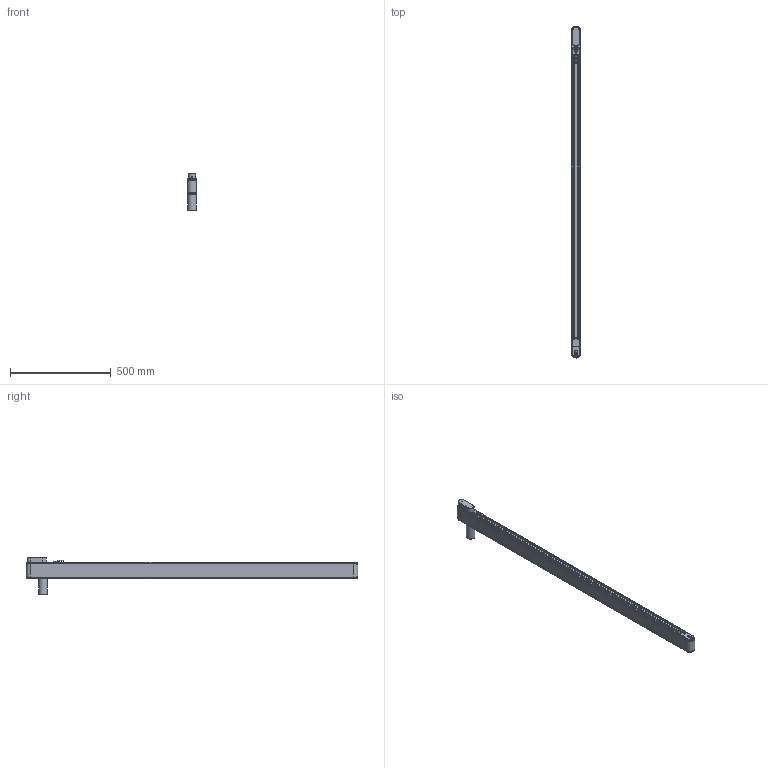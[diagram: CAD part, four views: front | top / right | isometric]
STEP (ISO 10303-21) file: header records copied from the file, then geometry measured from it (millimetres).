
FILE_DESCRIPTION(/* description */ (''),/* implementation_level */ '2;1');
FILE_NAME(/* name */ 'G:\DATEN\CAD\Förderband\Marketing\3D-Modelle (Standard)\FR-40-80-Q\FR-40-80-Q-1600-K (Motorendrohr 80 mm).stp',/* time_stamp */ '2019-05-08T14:24:53+02:00',/* author */ ('melanie.ochs'),/* organization */ (''),/* preprocessor_version */ 'ST-DEVELOPER v17',/* originating_system */ 'Autodesk Inventor 2019',/* authorisation */ '');
FILE_SCHEMA (('CONFIG_CONTROL_DESIGN'));
Length unit declared in the file: centimetre
Products named in the file (1): FR-40-80-Q-1600-K (Motorendrohr 80 mm)
Bounding box: 46.6 x 1646.6 x 185 mm (x, y, z)
Volume: 2313158 mm3; surface area: 1661750.5 mm2
Topology: 31 solids, 32 shells, 901 faces, 2452 edges, 1670 vertices
Faces by surface type: plane 446, cylinder 287, cone 76, bspline 61, torus 31
Full cylindrical faces by diameter (mm): 2 x2, 4 x6, 4.3 x4, 4.65 x1, 4.917 x2, 5 x11, 5.5 x8, 6 x2, 6.5 x1, 6.773 x1, 6.917 x2, 8 x7, 8.3 x24, 8.5 x8, 8.773 x1, 10 x1, 11 x1, 12 x3, 25 x2, 28 x4, 42 x2, 44 x2
Entity records: 30355 total; most frequent: CARTESIAN_POINT 6343, ORIENTED_EDGE 4868, DIRECTION 4759, EDGE_CURVE 2434, AXIS2_PLACEMENT_3D 1738, VERTEX_POINT 1670, LINE 1283, VECTOR 1283
